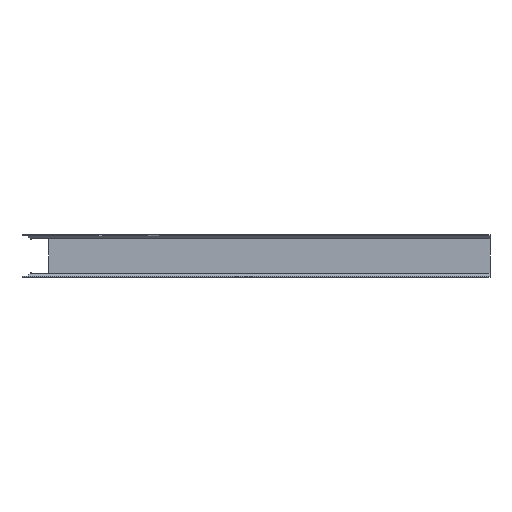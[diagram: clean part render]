
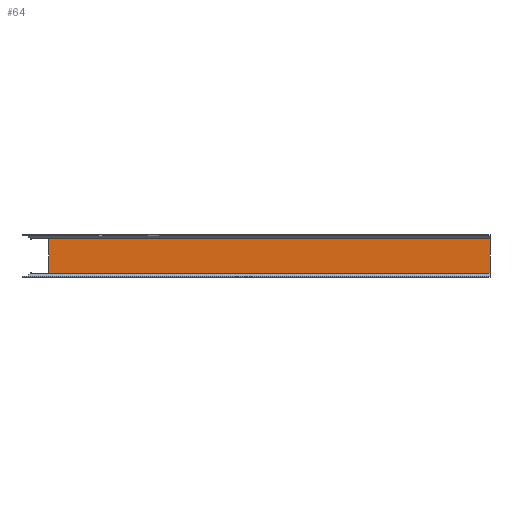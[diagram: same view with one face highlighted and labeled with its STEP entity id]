
A CAD part, front view. The second image highlights one B-rep face of the part: STEP entity #64.
In plain terms, the highlighted planar face has unit normal (0, -1, 0).
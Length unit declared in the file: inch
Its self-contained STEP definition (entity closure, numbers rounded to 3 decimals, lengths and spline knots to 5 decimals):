
#64 = ADVANCED_FACE ( 'NONE', ( #729 ), #1074, .T. ) ;
#276 = EDGE_CURVE ( 'NONE', #2252, #2268, #432, .T. ) ;
#277 = EDGE_CURVE ( 'NONE', #2245, #2252, #434, .T. ) ;
#296 = EDGE_CURVE ( 'NONE', #2264, #2245, #386, .T. ) ;
#307 = EDGE_CURVE ( 'NONE', #2264, #2268, #443, .T. ) ;
#376 = AXIS2_PLACEMENT_3D ( 'NONE', #978, #1035, #2323 ) ;
#381 = VECTOR ( 'NONE', #1798, 39.37008 ) ;
#386 = LINE ( 'NONE', #1815, #397 ) ;
#397 = VECTOR ( 'NONE', #1846, 39.37008 ) ;
#432 = LINE ( 'NONE', #1791, #381 ) ;
#434 = LINE ( 'NONE', #1778, #436 ) ;
#436 = VECTOR ( 'NONE', #1793, 39.37008 ) ;
#443 = LINE ( 'NONE', #1822, #471 ) ;
#471 = VECTOR ( 'NONE', #1824, 39.37008 ) ;
#529 = EDGE_LOOP ( 'NONE', ( #2066, #2147, #2130, #2138 ) ) ;
#729 = FACE_OUTER_BOUND ( 'NONE', #529, .T. ) ;
#978 = CARTESIAN_POINT ( 'NONE',  ( 0., -0.036, 0. ) ) ;
#1035 = DIRECTION ( 'NONE',  ( 0., -1., 0. ) ) ;
#1074 = PLANE ( 'NONE',  #376 ) ;
#1778 = CARTESIAN_POINT ( 'NONE',  ( 17.5, -0.036, 0. ) ) ;
#1791 = CARTESIAN_POINT ( 'NONE',  ( 17.5, -0.036, -1.461 ) ) ;
#1793 = DIRECTION ( 'NONE',  ( 0., 0., -1. ) ) ;
#1798 = DIRECTION ( 'NONE',  ( -1., 0., 0. ) ) ;
#1815 = CARTESIAN_POINT ( 'NONE',  ( 0., -0.036, -0.029 ) ) ;
#1822 = CARTESIAN_POINT ( 'NONE',  ( 1., -0.036, 0. ) ) ;
#1824 = DIRECTION ( 'NONE',  ( 0., 0., -1. ) ) ;
#1846 = DIRECTION ( 'NONE',  ( 1., 0., 0. ) ) ;
#1930 = CARTESIAN_POINT ( 'NONE',  ( 1., -0.036, -0.029 ) ) ;
#1933 = CARTESIAN_POINT ( 'NONE',  ( 1., -0.036, -1.461 ) ) ;
#1956 = CARTESIAN_POINT ( 'NONE',  ( 17.5, -0.036, -0.029 ) ) ;
#1966 = CARTESIAN_POINT ( 'NONE',  ( 17.5, -0.036, -1.461 ) ) ;
#2066 = ORIENTED_EDGE ( 'NONE', *, *, #296, .F. ) ;
#2130 = ORIENTED_EDGE ( 'NONE', *, *, #276, .F. ) ;
#2138 = ORIENTED_EDGE ( 'NONE', *, *, #277, .F. ) ;
#2147 = ORIENTED_EDGE ( 'NONE', *, *, #307, .T. ) ;
#2245 = VERTEX_POINT ( 'NONE', #1956 ) ;
#2252 = VERTEX_POINT ( 'NONE', #1966 ) ;
#2264 = VERTEX_POINT ( 'NONE', #1930 ) ;
#2268 = VERTEX_POINT ( 'NONE', #1933 ) ;
#2323 = DIRECTION ( 'NONE',  ( 0., 0., -1. ) ) ;
